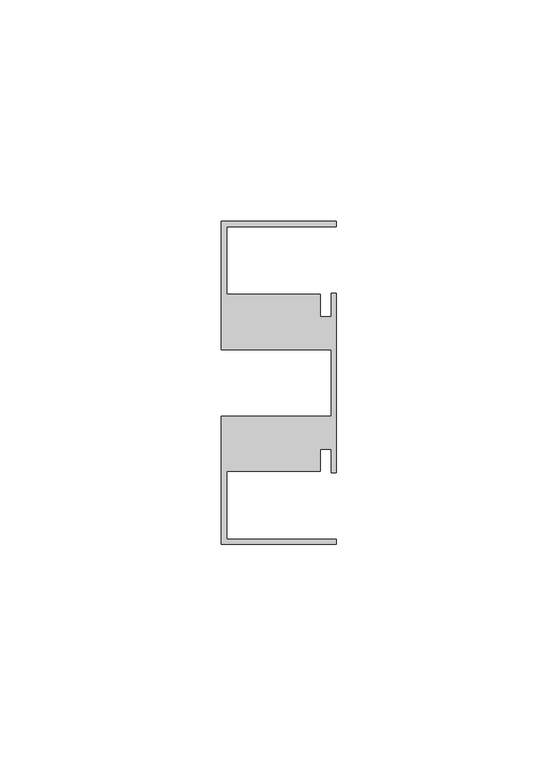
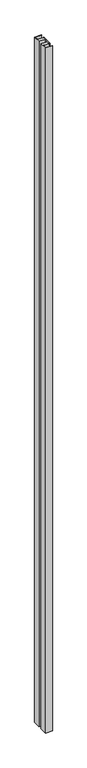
"""IFC4 building model written with IfcOpenShell, lengths in millimetres: member geometry, Прямоугольный импост : 9-AMG-1-Профиль 26Х73 Верх П."""

from ifc_helpers import new_model, si_unit, frame, origin, place, context, project, spatial, polyline, outline, extrude, source, transform, mapped, element, save


def member_b0658390(model_context):
    return source(origin(), model_context, "Body", "SweptSolid", [
        extrude(outline(polyline([(-26.0, 36.5), (0.0, 36.5), (0.0, 35.3), (-24.8, 35.3), (-24.8, 20.0), (-3.7, 20.0), (-3.7, 14.95), (-1.2, 14.95), (-1.2, 20.3007529), (0.0, 20.3007529), (0.0, -20.3007529), (-1.2, -20.3007529), (-1.2, -14.95), (-3.7, -14.95), (-3.7, -20.0), (-24.8, -20.0), (-24.8, -35.3), (0.0, -35.3), (0.0, -36.5), (-26.0, -36.5), (-26.0, -7.5116043), (-1.2, -7.5116043), (-1.2, 7.5116043), (-26.0, 7.5116043), (-26.0, 36.5)])), frame((0.0, 0.0, -2800.0), z_axis=(0.0, 0.0, 1.0), x_axis=(1.0, 0.0, 0.0)), (0.0, 0.0, 1.0), 2800.0),
    ])


if __name__ == "__main__":
    model = new_model("IFC4")
    model_context = context("Model", 3, world=origin())
    ifc_project = project(units=[si_unit("LENGTHUNIT", "METRE", prefix="MILLI")], contexts=[model_context])
    site = spatial("IfcSite", under=ifc_project)
    building = spatial("IfcBuilding", under=site)
    placement = place(None, origin())
    member_shape = member_b0658390(model_context)
    element("IfcMember", 1, ObjectType="Прямоугольный импост : 9-AMG-1-Профиль 26Х73 Верх П", at=placement, inside=building, context=model_context, shape_type="MappedRepresentation", body=[
        mapped(member_shape, transform((0.0, 0.0, 0.0), x_axis=(1.0, 0.0, 0.0), y_axis=(0.0, 1.0, 0.0), z_axis=(0.0, 0.0, 1.0))),
    ])
    save(model, "model.ifc")
